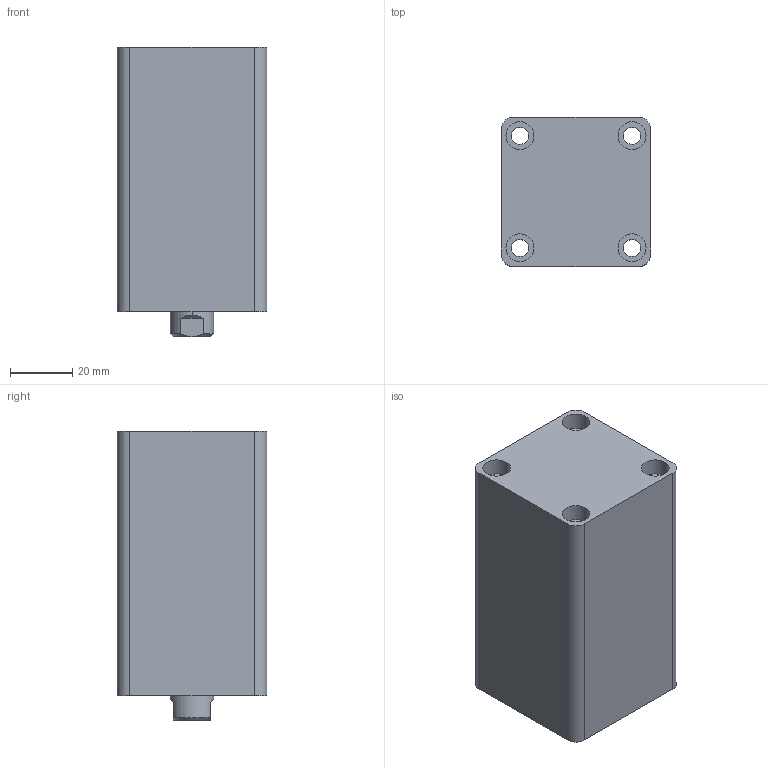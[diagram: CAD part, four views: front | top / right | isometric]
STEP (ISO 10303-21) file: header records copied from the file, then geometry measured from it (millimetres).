
FILE_DESCRIPTION (( 'STEP AP203' ), '1' );
FILE_NAME ('HTB-SD25-40N.STEP', '2019-10-07T06:01:04', ( '微软用户' ), ( '微软中国' ), 'SwSTEP 2.0', 'SolidWorks 2012', '' );
FILE_SCHEMA (( 'CONFIG_CONTROL_DESIGN' ));
Length unit declared in the file: millimetre
Products named in the file (3): HTB-SD25-40N; HTB-SD25-40N活塞杆; HTB-SD25-40掛极
Assembly tree (2 placements, depth 2):
  HTB-SD25-40N
    HTB-SD25-40掛极
    HTB-SD25-40N活塞杆
Bounding box: 48 x 48 x 93 mm (x, y, z)
Volume: 170356.5 mm3; surface area: 38569.8 mm2
Topology: 2 solids, 2 shells, 83 faces, 182 edges, 117 vertices
Faces by surface type: cylinder 42, plane 27, cone 8, torus 6
Entity records: 2653 total; most frequent: DIRECTION 454, CARTESIAN_POINT 429, ORIENTED_EDGE 360, AXIS2_PLACEMENT_3D 194, EDGE_CURVE 180, VERTEX_POINT 117, EDGE_LOOP 107, CIRCLE 106
